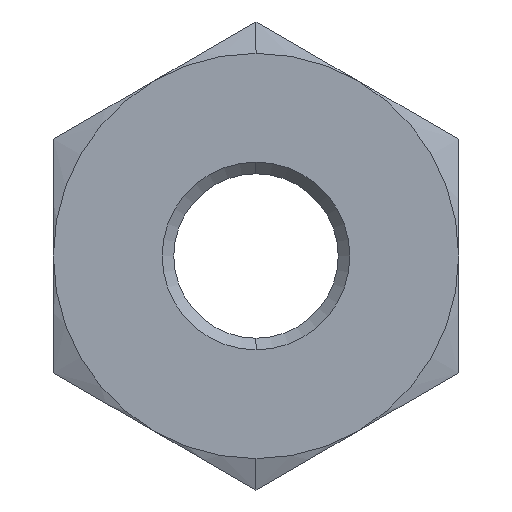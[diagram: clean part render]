
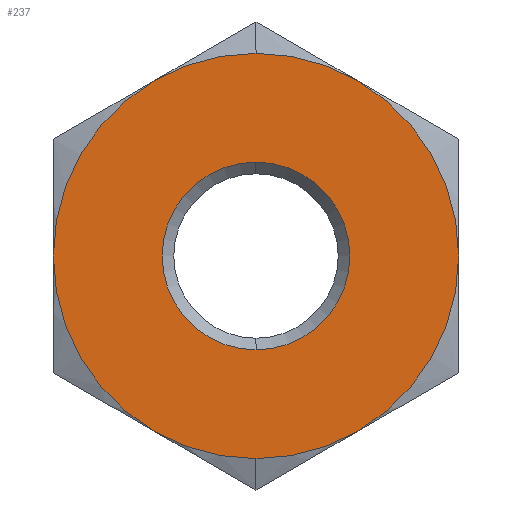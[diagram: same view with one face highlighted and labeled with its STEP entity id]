
A CAD part, left-side view. The second image highlights one B-rep face of the part: STEP entity #237.
In plain terms, the highlighted planar face has unit normal (-1, 0, 0).
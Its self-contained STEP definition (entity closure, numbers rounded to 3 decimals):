
#237=ADVANCED_FACE('',(#479,#480),#481,.F.);
#479=FACE_OUTER_BOUND('',#717,.T.);
#480=FACE_BOUND('',#718,.T.);
#481=PLANE('',#719);
#717=EDGE_LOOP('',(#1289,#1290,#1291,#1292,#1293,#1294,#1295,#1296));
#718=EDGE_LOOP('',(#1297,#1298));
#719=AXIS2_PLACEMENT_3D('',#1299,#1300,#1301);
#1289=ORIENTED_EDGE('',*,*,#1532,.T.);
#1290=ORIENTED_EDGE('',*,*,#1537,.T.);
#1291=ORIENTED_EDGE('',*,*,#1542,.T.);
#1292=ORIENTED_EDGE('',*,*,#1388,.T.);
#1293=ORIENTED_EDGE('',*,*,#1545,.T.);
#1294=ORIENTED_EDGE('',*,*,#1540,.T.);
#1295=ORIENTED_EDGE('',*,*,#1391,.T.);
#1296=ORIENTED_EDGE('',*,*,#1534,.T.);
#1297=ORIENTED_EDGE('',*,*,#1409,.T.);
#1298=ORIENTED_EDGE('',*,*,#1496,.T.);
#1299=CARTESIAN_POINT('',(0.,0.,0.));
#1300=DIRECTION('',(1.0,0.0,0.));
#1301=DIRECTION('',(0.,0.0,-1.0));
#1388=EDGE_CURVE('',#1642,#1644,#1646,.T.);
#1391=EDGE_CURVE('',#1651,#1648,#1652,.T.);
#1409=EDGE_CURVE('',#1681,#1678,#1682,.T.);
#1496=EDGE_CURVE('',#1678,#1681,#1794,.T.);
#1532=EDGE_CURVE('',#1837,#1841,#1843,.T.);
#1534=EDGE_CURVE('',#1648,#1837,#1845,.T.);
#1537=EDGE_CURVE('',#1841,#1847,#1850,.T.);
#1540=EDGE_CURVE('',#1826,#1651,#1853,.T.);
#1542=EDGE_CURVE('',#1847,#1642,#1855,.T.);
#1545=EDGE_CURVE('',#1644,#1826,#1858,.T.);
#1642=VERTEX_POINT('',#1963);
#1644=VERTEX_POINT('',#1966);
#1646=CIRCLE('',#1979,12.);
#1648=VERTEX_POINT('',#1981);
#1651=VERTEX_POINT('',#1985);
#1652=CIRCLE('',#1986,12.);
#1678=VERTEX_POINT('',#2047);
#1681=VERTEX_POINT('',#2051);
#1682=CIRCLE('',#2052,5.556);
#1794=CIRCLE('',#2181,5.556);
#1826=VERTEX_POINT('',#2324);
#1837=VERTEX_POINT('',#2371);
#1841=VERTEX_POINT('',#2397);
#1843=CIRCLE('',#2410,12.);
#1845=CIRCLE('',#2412,12.);
#1847=VERTEX_POINT('',#2414);
#1850=CIRCLE('',#2428,12.);
#1853=CIRCLE('',#2442,12.);
#1855=CIRCLE('',#2444,12.);
#1858=CIRCLE('',#2458,12.);
#1963=CARTESIAN_POINT('',(0.,0.,12.));
#1966=CARTESIAN_POINT('',(0.,6.,10.392));
#1979=AXIS2_PLACEMENT_3D('',#2587,#2588,#2589);
#1981=CARTESIAN_POINT('',(0.,0.,-12.));
#1985=CARTESIAN_POINT('',(0.,6.,-10.392));
#1986=AXIS2_PLACEMENT_3D('',#2591,#2592,#2593);
#2047=CARTESIAN_POINT('',(0.,0.,-5.556));
#2051=CARTESIAN_POINT('',(0.,0.0,5.556));
#2052=AXIS2_PLACEMENT_3D('',#2618,#2619,#2620);
#2181=AXIS2_PLACEMENT_3D('',#2752,#2753,#2754);
#2324=CARTESIAN_POINT('',(0.,12.,0.));
#2371=CARTESIAN_POINT('',(0.,-6.,-10.392));
#2397=CARTESIAN_POINT('',(0.0,-12.,0.0));
#2410=AXIS2_PLACEMENT_3D('',#2771,#2772,#2773);
#2412=AXIS2_PLACEMENT_3D('',#2774,#2775,#2776);
#2414=CARTESIAN_POINT('',(0.,-6.,10.392));
#2428=AXIS2_PLACEMENT_3D('',#2777,#2778,#2779);
#2442=AXIS2_PLACEMENT_3D('',#2780,#2781,#2782);
#2444=AXIS2_PLACEMENT_3D('',#2783,#2784,#2785);
#2458=AXIS2_PLACEMENT_3D('',#2786,#2787,#2788);
#2587=CARTESIAN_POINT('',(0.0,0.0,0.0));
#2588=DIRECTION('',(-1.0,-0.0,0.));
#2589=DIRECTION('',(0.,0.0,-1.0));
#2591=CARTESIAN_POINT('',(0.0,0.0,0.0));
#2592=DIRECTION('',(-1.0,-0.0,0.));
#2593=DIRECTION('',(0.,0.0,-1.0));
#2618=CARTESIAN_POINT('',(0.0,0.0,0.0));
#2619=DIRECTION('',(1.0,0.0,0.));
#2620=DIRECTION('',(0.,0.0,1.0));
#2752=CARTESIAN_POINT('',(0.0,0.0,0.0));
#2753=DIRECTION('',(1.0,0.0,0.));
#2754=DIRECTION('',(0.,0.0,1.0));
#2771=CARTESIAN_POINT('',(0.0,0.0,0.0));
#2772=DIRECTION('',(-1.0,-0.0,0.));
#2773=DIRECTION('',(0.,0.0,-1.0));
#2774=CARTESIAN_POINT('',(0.0,0.0,0.0));
#2775=DIRECTION('',(-1.0,-0.0,0.));
#2776=DIRECTION('',(0.,0.0,-1.0));
#2777=CARTESIAN_POINT('',(0.0,0.0,0.0));
#2778=DIRECTION('',(-1.0,-0.0,0.));
#2779=DIRECTION('',(0.,0.0,-1.0));
#2780=CARTESIAN_POINT('',(0.0,0.0,0.0));
#2781=DIRECTION('',(-1.0,-0.0,0.));
#2782=DIRECTION('',(0.,0.0,-1.0));
#2783=CARTESIAN_POINT('',(0.0,0.0,0.0));
#2784=DIRECTION('',(-1.0,-0.0,0.));
#2785=DIRECTION('',(0.,0.0,-1.0));
#2786=CARTESIAN_POINT('',(0.0,0.0,0.0));
#2787=DIRECTION('',(-1.0,-0.0,0.));
#2788=DIRECTION('',(0.,0.0,-1.0));
